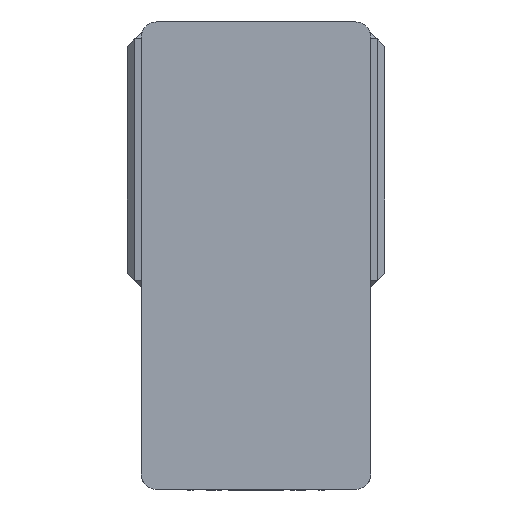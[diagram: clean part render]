
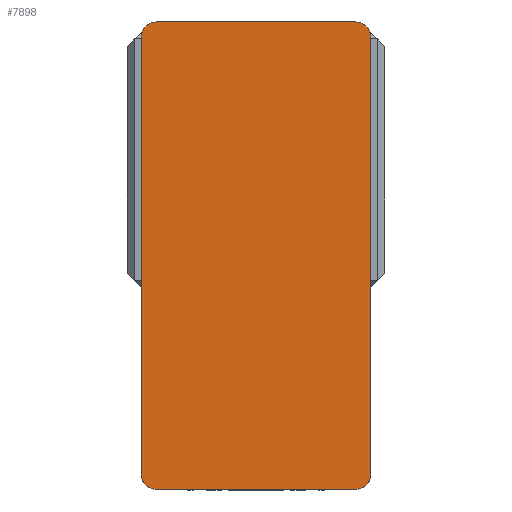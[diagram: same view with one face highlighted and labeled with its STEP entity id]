
A CAD part, left-side view. The second image highlights one B-rep face of the part: STEP entity #7898.
In plain terms, the highlighted planar face has unit normal (-1, 0, 0) as drawn and (0, 0, 1) by its records, which use the part's own axes.
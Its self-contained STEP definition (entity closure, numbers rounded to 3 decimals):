
#191 = ORIENTED_EDGE ( 'NONE', *, *, #8233, .T. ) ;
#677 = CARTESIAN_POINT ( 'NONE',  ( 65., 152.5, 105. ) ) ;
#705 = VERTEX_POINT ( 'NONE', #9328 ) ;
#738 = CIRCLE ( 'NONE', #5743, 10. ) ;
#770 = CARTESIAN_POINT ( 'NONE',  ( -75., 152.5, 105. ) ) ;
#914 = CARTESIAN_POINT ( 'NONE',  ( 65., 142.5, 105. ) ) ;
#1109 = LINE ( 'NONE', #770, #3033 ) ;
#1227 = DIRECTION ( 'NONE',  ( 0., 0., 1. ) ) ;
#1540 = ORIENTED_EDGE ( 'NONE', *, *, #3615, .T. ) ;
#1605 = ORIENTED_EDGE ( 'NONE', *, *, #4291, .T. ) ;
#1627 = VECTOR ( 'NONE', #9585, 1000. ) ;
#1661 = FACE_OUTER_BOUND ( 'NONE', #7916, .T. ) ;
#1741 = DIRECTION ( 'NONE',  ( 1., 0., 0. ) ) ;
#1910 = EDGE_CURVE ( 'NONE', #8868, #705, #8733, .T. ) ;
#1960 = VERTEX_POINT ( 'NONE', #6703 ) ;
#2122 = CARTESIAN_POINT ( 'NONE',  ( 65., -142.5, 105. ) ) ;
#2230 = DIRECTION ( 'NONE',  ( 0., 0., 1. ) ) ;
#2283 = LINE ( 'NONE', #8299, #8655 ) ;
#2293 = CARTESIAN_POINT ( 'NONE',  ( -75., -142.5, 105. ) ) ;
#2516 = AXIS2_PLACEMENT_3D ( 'NONE', #914, #6739, #1741 ) ;
#2858 = EDGE_CURVE ( 'NONE', #1960, #6416, #6253, .T. ) ;
#2957 = DIRECTION ( 'NONE',  ( 1., 0., 0. ) ) ;
#3033 = VECTOR ( 'NONE', #9896, 1000. ) ;
#3250 = ORIENTED_EDGE ( 'NONE', *, *, #2858, .T. ) ;
#3615 = EDGE_CURVE ( 'NONE', #9274, #7811, #2283, .T. ) ;
#3716 = AXIS2_PLACEMENT_3D ( 'NONE', #3890, #2230, #8045 ) ;
#3768 = CARTESIAN_POINT ( 'NONE',  ( -75., 152.5, 105. ) ) ;
#3806 = VECTOR ( 'NONE', #5710, 1000. ) ;
#3890 = CARTESIAN_POINT ( 'NONE',  ( 0., 0., 105. ) ) ;
#3972 = CIRCLE ( 'NONE', #10053, 10. ) ;
#4051 = ORIENTED_EDGE ( 'NONE', *, *, #9350, .T. ) ;
#4202 = CIRCLE ( 'NONE', #2516, 10. ) ;
#4291 = EDGE_CURVE ( 'NONE', #9535, #1960, #1109, .T. ) ;
#4327 = DIRECTION ( 'NONE',  ( 0., 0., 1. ) ) ;
#4428 = CARTESIAN_POINT ( 'NONE',  ( -75., 142.5, 105. ) ) ;
#5571 = PLANE ( 'NONE',  #3716 ) ;
#5710 = DIRECTION ( 'NONE',  ( 0., 1., 0. ) ) ;
#5743 = AXIS2_PLACEMENT_3D ( 'NONE', #9296, #4327, #10143 ) ;
#6208 = CARTESIAN_POINT ( 'NONE',  ( -65., 142.5, 105. ) ) ;
#6253 = CIRCLE ( 'NONE', #7979, 10. ) ;
#6416 = VERTEX_POINT ( 'NONE', #4428 ) ;
#6517 = CARTESIAN_POINT ( 'NONE',  ( 75., 152.5, 105. ) ) ;
#6688 = VERTEX_POINT ( 'NONE', #2293 ) ;
#6703 = CARTESIAN_POINT ( 'NONE',  ( -65., 152.5, 105. ) ) ;
#6735 = ORIENTED_EDGE ( 'NONE', *, *, #1910, .T. ) ;
#6739 = DIRECTION ( 'NONE',  ( 0., 0., 1. ) ) ;
#7010 = CARTESIAN_POINT ( 'NONE',  ( -65., -152.5, 105. ) ) ;
#7026 = DIRECTION ( 'NONE',  ( 1., 0., 0. ) ) ;
#7468 = DIRECTION ( 'NONE',  ( 1., 0., 0. ) ) ;
#7795 = ORIENTED_EDGE ( 'NONE', *, *, #7813, .T. ) ;
#7811 = VERTEX_POINT ( 'NONE', #8728 ) ;
#7813 = EDGE_CURVE ( 'NONE', #7811, #8868, #3972, .T. ) ;
#7898 = ADVANCED_FACE ( 'NONE', ( #1661 ), #5571, .T. ) ;
#7916 = EDGE_LOOP ( 'NONE', ( #1540, #7795, #6735, #9722, #1605, #3250, #4051, #191 ) ) ;
#7929 = DIRECTION ( 'NONE',  ( 0., 0., 1. ) ) ;
#7979 = AXIS2_PLACEMENT_3D ( 'NONE', #6208, #1227, #7026 ) ;
#8045 = DIRECTION ( 'NONE',  ( 1., 0., 0. ) ) ;
#8233 = EDGE_CURVE ( 'NONE', #6688, #9274, #738, .T. ) ;
#8245 = LINE ( 'NONE', #3768, #1627 ) ;
#8299 = CARTESIAN_POINT ( 'NONE',  ( -75., -152.5, 105. ) ) ;
#8655 = VECTOR ( 'NONE', #7468, 1000. ) ;
#8728 = CARTESIAN_POINT ( 'NONE',  ( 65., -152.5, 105. ) ) ;
#8733 = LINE ( 'NONE', #6517, #3806 ) ;
#8868 = VERTEX_POINT ( 'NONE', #8940 ) ;
#8940 = CARTESIAN_POINT ( 'NONE',  ( 75., -142.5, 105. ) ) ;
#9274 = VERTEX_POINT ( 'NONE', #7010 ) ;
#9296 = CARTESIAN_POINT ( 'NONE',  ( -65., -142.5, 105. ) ) ;
#9328 = CARTESIAN_POINT ( 'NONE',  ( 75., 142.5, 105. ) ) ;
#9350 = EDGE_CURVE ( 'NONE', #6416, #6688, #8245, .T. ) ;
#9535 = VERTEX_POINT ( 'NONE', #677 ) ;
#9585 = DIRECTION ( 'NONE',  ( 0., -1., 0. ) ) ;
#9722 = ORIENTED_EDGE ( 'NONE', *, *, #10656, .T. ) ;
#9896 = DIRECTION ( 'NONE',  ( -1., 0., 0. ) ) ;
#10053 = AXIS2_PLACEMENT_3D ( 'NONE', #2122, #7929, #2957 ) ;
#10143 = DIRECTION ( 'NONE',  ( 1., 0., 0. ) ) ;
#10656 = EDGE_CURVE ( 'NONE', #705, #9535, #4202, .T. ) ;
